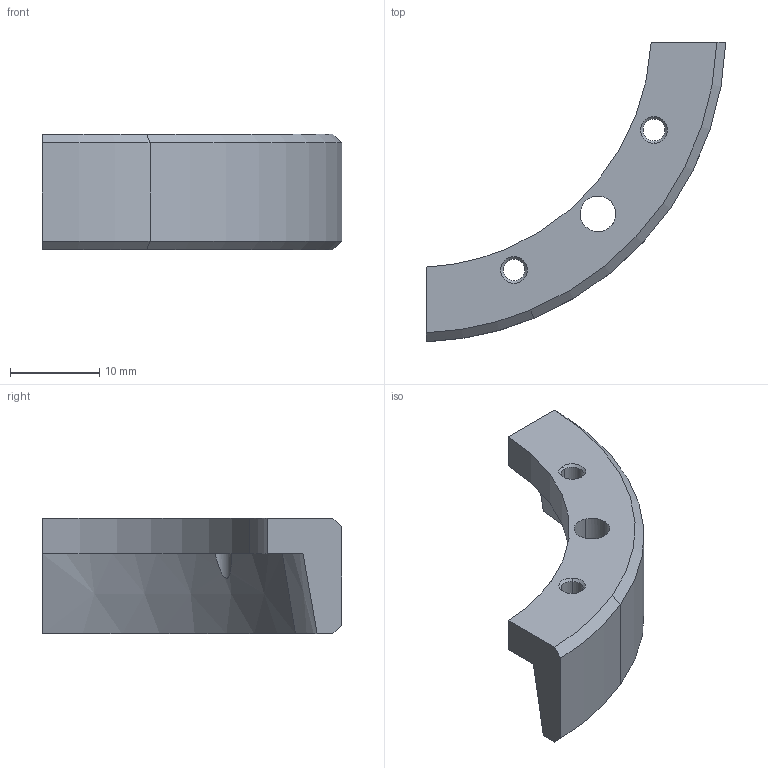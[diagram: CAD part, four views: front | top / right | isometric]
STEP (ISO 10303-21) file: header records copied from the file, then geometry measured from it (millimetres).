
FILE_DESCRIPTION(/* description */ ('VariCAD 2010-3.03 AP-214'),/* implementation_level */ '2;1');
FILE_NAME(/* name */ '0353-19-89',/* time_stamp */ '2011-03-02T15:30:10-07:00',/* author */ (''),/* organization */ (''),/* preprocessor_version */ 'ST-DEVELOPER v12',/* originating_system */ 'VariCAD 2010-3.03; kernel version (20100102)',/* authorisation */ '');
FILE_SCHEMA (('AUTOMOTIVE_DESIGN'));
Length unit declared in the file: millimetre
Products named in the file (1): Part
Bounding box: 33.59 x 33.59 x 13 mm (x, y, z)
Volume: 2968.3 mm3; surface area: 2237.2 mm2
Topology: 3 solids, 3 shells, 35 faces, 86 edges, 54 vertices
Faces by surface type: cylinder 18, cone 10, plane 7
Entity records: 1172 total; most frequent: CARTESIAN_POINT 250, DIRECTION 203, ORIENTED_EDGE 172, EDGE_CURVE 86, AXIS2_PLACEMENT_3D 85, VERTEX_POINT 54, CIRCLE 46, EDGE_LOOP 42
